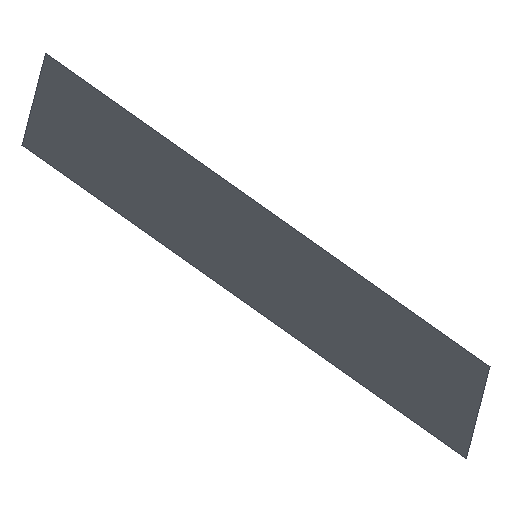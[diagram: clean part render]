
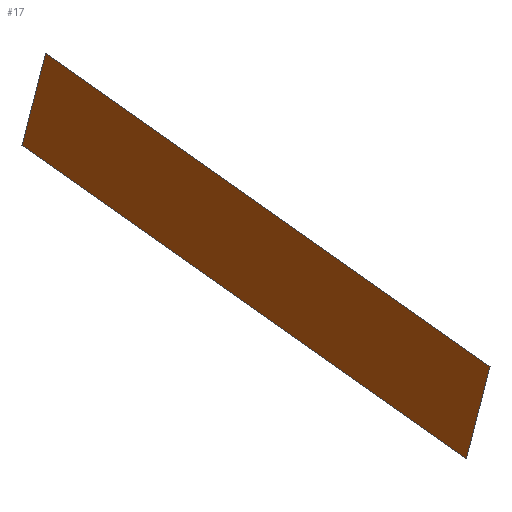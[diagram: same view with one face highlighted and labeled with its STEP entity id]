
A CAD part, front view. The second image highlights one B-rep face of the part: STEP entity #17.
In plain terms, the highlighted planar face has unit normal (-0.799, -0.602, 0).
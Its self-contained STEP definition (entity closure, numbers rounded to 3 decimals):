
#17 = ADVANCED_FACE('',(#18),#52,.F.);
#18 = FACE_BOUND('',#19,.F.);
#19 = EDGE_LOOP('',(#20,#30,#38,#46));
#20 = ORIENTED_EDGE('',*,*,#21,.F.);
#21 = EDGE_CURVE('',#22,#24,#26,.T.);
#22 = VERTEX_POINT('',#23);
#23 = CARTESIAN_POINT('',(13.,-7.,29.));
#24 = VERTEX_POINT('',#25);
#25 = CARTESIAN_POINT('',(15.351,-10.121,38.205
    ));
#26 = LINE('',#27,#28);
#27 = CARTESIAN_POINT('',(13.,-7.,29.));
#28 = VECTOR('',#29,1.);
#29 = DIRECTION('',(0.235,-0.312,0.921));
#30 = ORIENTED_EDGE('',*,*,#31,.T.);
#31 = EDGE_CURVE('',#22,#32,#34,.T.);
#32 = VERTEX_POINT('',#33);
#33 = CARTESIAN_POINT('',(-31.318,51.812,60.258
    ));
#34 = LINE('',#35,#36);
#35 = CARTESIAN_POINT('',(13.,-7.,29.));
#36 = VECTOR('',#37,1.);
#37 = DIRECTION('',(-0.554,0.735,0.391));
#38 = ORIENTED_EDGE('',*,*,#39,.T.);
#39 = EDGE_CURVE('',#32,#40,#42,.T.);
#40 = VERTEX_POINT('',#41);
#41 = CARTESIAN_POINT('',(-28.966,48.691,
    69.464));
#42 = LINE('',#43,#44);
#43 = CARTESIAN_POINT('',(-31.318,51.812,60.258
    ));
#44 = VECTOR('',#45,1.);
#45 = DIRECTION('',(0.235,-0.312,0.921));
#46 = ORIENTED_EDGE('',*,*,#47,.F.);
#47 = EDGE_CURVE('',#24,#40,#48,.T.);
#48 = LINE('',#49,#50);
#49 = CARTESIAN_POINT('',(15.351,-10.121,38.205
    ));
#50 = VECTOR('',#51,1.);
#51 = DIRECTION('',(-0.554,0.735,0.391));
#52 = PLANE('',#53);
#53 = AXIS2_PLACEMENT_3D('',#54,#55,#56);
#54 = CARTESIAN_POINT('',(13.,-7.,29.));
#55 = DIRECTION('',(0.799,0.602,0.));
#56 = DIRECTION('',(0.235,-0.312,0.921));
